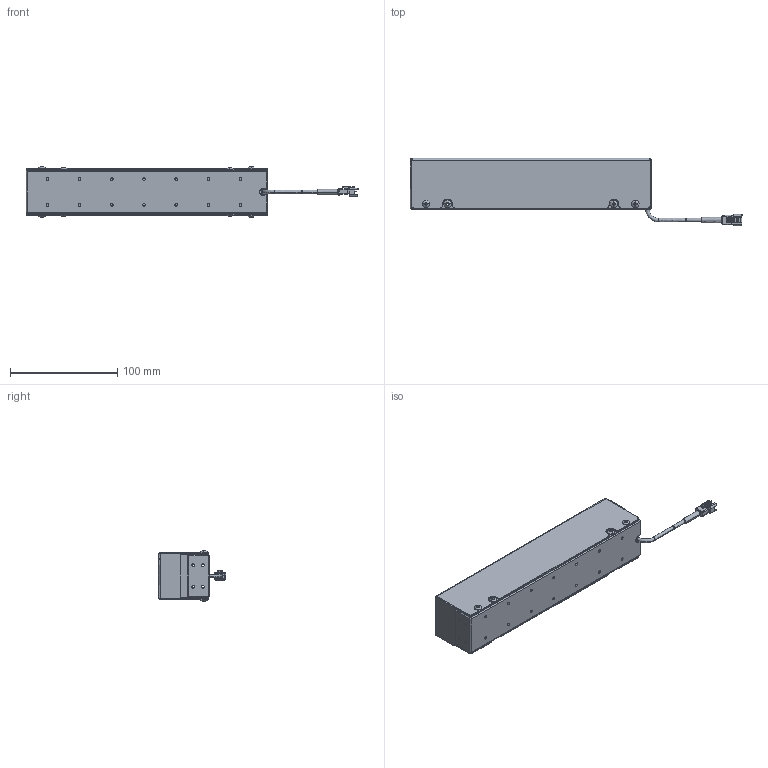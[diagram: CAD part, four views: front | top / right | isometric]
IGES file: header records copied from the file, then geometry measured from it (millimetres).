
Start section: SolidWorks IGES file using analytic representation for surfaces
Bounding box: 309.45 x 62.75 x 47.6 mm (x, y, z)
Surface area: 98408.4 mm2 (no closed solid volume)
Topology: 0 solids, 0 shells, 572 faces, 5805 edges, 5797 vertices
Faces by surface type: bspline 367, revolution 205
